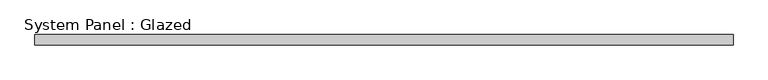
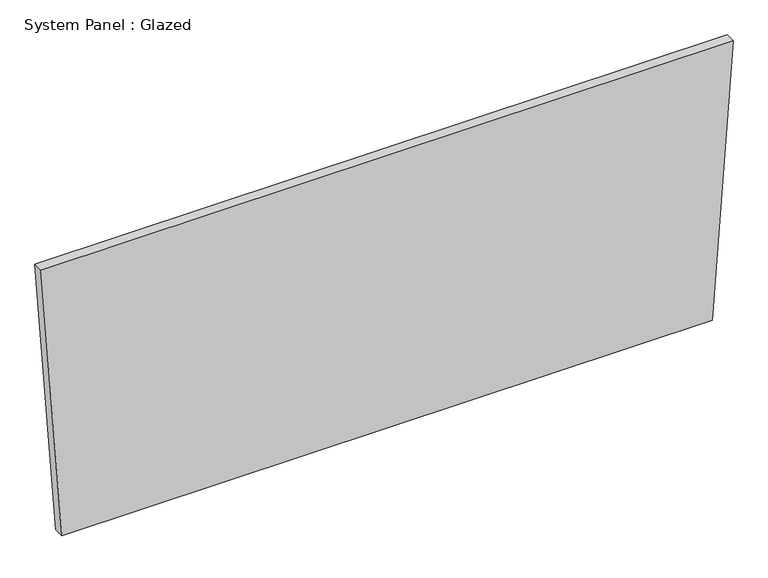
"""IFC4 building model written with IfcOpenShell, lengths in millimetres: plate geometry, System Panel : Glazed."""

from ifc_helpers import new_model, si_unit, frame, origin, place, context, project, spatial, polyline, outline, extrude, source, transform, mapped, element, save


def system_panel_glazed_e54a6020(model_context):
    return source(origin(), model_context, "Body", "SweptSolid", [
        extrude(outline(polyline([(0.0, -792.0771971), (0.0006846, 792.0772468), (702.142016, 843.073555), (702.142016, -843.073555), (0.0, -792.0771971)])), frame((0.0, 19.05, 0.0), z_axis=(0.0, 1.0, 0.0), x_axis=(0.0, 0.0, 1.0)), (0.0, 0.0, 1.0), 25.4),
    ])


if __name__ == "__main__":
    model = new_model("IFC4")
    model_context = context("Model", 3, world=origin())
    ifc_project = project(units=[si_unit("LENGTHUNIT", "METRE", prefix="MILLI")], contexts=[model_context])
    site = spatial("IfcSite", under=ifc_project)
    building = spatial("IfcBuilding", under=site)
    placement = place(None, origin())
    system_panel_glazed_shape = system_panel_glazed_e54a6020(model_context)
    element("IfcPlate", 1, ObjectType="System Panel : Glazed", at=placement, inside=building, context=model_context, shape_type="MappedRepresentation", body=[
        mapped(system_panel_glazed_shape, transform((0.0, 0.0, 0.0), x_axis=(1.0, 0.0, 0.0), y_axis=(0.0, 1.0, 0.0), z_axis=(0.0, 0.0, 1.0))),
    ])
    save(model, "model.ifc")
